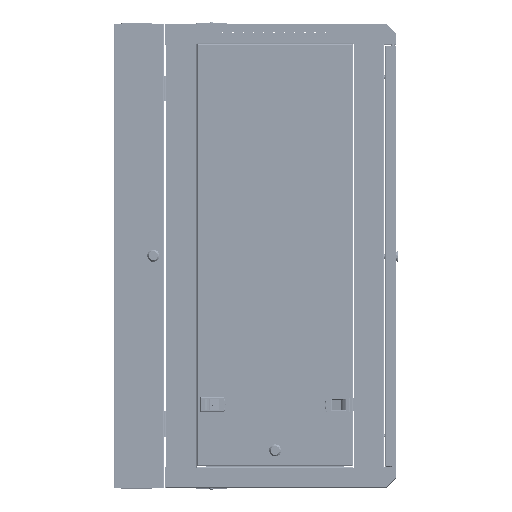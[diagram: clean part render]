
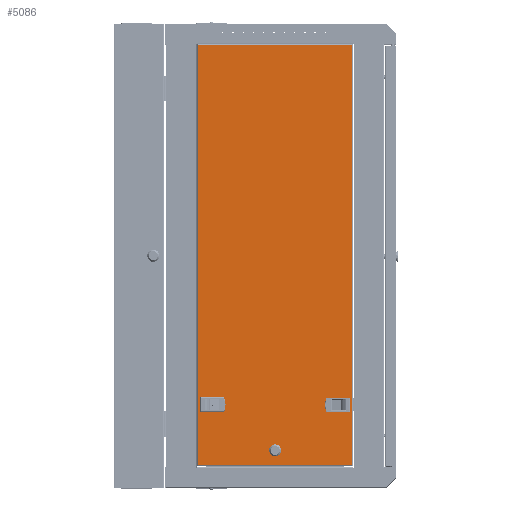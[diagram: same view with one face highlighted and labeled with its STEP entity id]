
A CAD part, top view. The second image highlights one B-rep face of the part: STEP entity #5086.
In plain terms, the highlighted planar face has unit normal (0, 0, 1) as drawn and (0, -1, 0) by its records, which use the part's own axes.
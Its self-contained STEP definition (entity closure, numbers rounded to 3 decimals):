
#5086 = ADVANCED_FACE( 'NONE', ( #13954, #13955, #13956, #13957 ), #13958, .T. );
#13954 = FACE_OUTER_BOUND( '', #34427, .T. );
#13955 = FACE_BOUND( '', #34428, .T. );
#13956 = FACE_BOUND( '', #34429, .T. );
#13957 = FACE_BOUND( '', #34430, .T. );
#13958 = PLANE( '', #34431 );
#34427 = EDGE_LOOP( '', ( #65802, #65803, #65804, #65805 ) );
#34428 = EDGE_LOOP( '', ( #65806, #65807, #65808, #65809 ) );
#34429 = EDGE_LOOP( '', ( #65810, #65811, #65812, #65813 ) );
#34430 = EDGE_LOOP( '', ( #65814, #65815, #65816, #65817 ) );
#34431 = AXIS2_PLACEMENT_3D( '', #65818, #65819, #65820 );
#65802 = ORIENTED_EDGE( '', *, *, #86759, .F. );
#65803 = ORIENTED_EDGE( '', *, *, #86874, .T. );
#65804 = ORIENTED_EDGE( '', *, *, #86903, .T. );
#65805 = ORIENTED_EDGE( '', *, *, #86741, .T. );
#65806 = ORIENTED_EDGE( '', *, *, #86762, .F. );
#65807 = ORIENTED_EDGE( '', *, *, #86806, .F. );
#65808 = ORIENTED_EDGE( '', *, *, #86904, .F. );
#65809 = ORIENTED_EDGE( '', *, *, #86905, .F. );
#65810 = ORIENTED_EDGE( '', *, *, #86686, .F. );
#65811 = ORIENTED_EDGE( '', *, *, #86690, .F. );
#65812 = ORIENTED_EDGE( '', *, *, #86906, .F. );
#65813 = ORIENTED_EDGE( '', *, *, #86895, .F. );
#65814 = ORIENTED_EDGE( '', *, *, #86865, .F. );
#65815 = ORIENTED_EDGE( '', *, *, #86907, .F. );
#65816 = ORIENTED_EDGE( '', *, *, #86908, .F. );
#65817 = ORIENTED_EDGE( '', *, *, #86693, .F. );
#65818 = CARTESIAN_POINT( '', ( -151.5, 0., 410.45 ) );
#65819 = DIRECTION( '', ( 0., -1., 0. ) );
#65820 = DIRECTION( '', ( 0., 0., -1. ) );
#86686 = EDGE_CURVE( 'NONE', #105418, #105420, #105421, .T. );
#86690 = EDGE_CURVE( 'NONE', #105426, #105418, #105428, .T. );
#86693 = EDGE_CURVE( 'NONE', #105431, #105433, #105434, .T. );
#86741 = EDGE_CURVE( 'NONE', #105525, #105526, #105527, .T. );
#86759 = EDGE_CURVE( 'NONE', #105556, #105526, #105558, .T. );
#86762 = EDGE_CURVE( 'NONE', #105561, #105563, #105564, .T. );
#86806 = EDGE_CURVE( 'NONE', #105634, #105561, #105636, .T. );
#86865 = EDGE_CURVE( 'NONE', #105731, #105431, #105733, .T. );
#86874 = EDGE_CURVE( 'NONE', #105556, #105735, #105748, .T. );
#86895 = EDGE_CURVE( 'NONE', #105420, #105781, #105782, .T. );
#86903 = EDGE_CURVE( 'NONE', #105735, #105525, #105792, .T. );
#86904 = EDGE_CURVE( 'NONE', #105793, #105634, #105794, .T. );
#86905 = EDGE_CURVE( 'NONE', #105563, #105793, #105795, .T. );
#86906 = EDGE_CURVE( 'NONE', #105781, #105426, #105796, .T. );
#86907 = EDGE_CURVE( 'NONE', #105797, #105731, #105798, .T. );
#86908 = EDGE_CURVE( 'NONE', #105433, #105797, #105799, .T. );
#105418 = VERTEX_POINT( 'NONE', #141581 );
#105420 = VERTEX_POINT( 'NONE', #141584 );
#105421 = LINE( '', #141585, #141586 );
#105426 = VERTEX_POINT( 'NONE', #141593 );
#105428 = LINE( '', #141596, #141597 );
#105431 = VERTEX_POINT( 'NONE', #141601 );
#105433 = VERTEX_POINT( 'NONE', #141604 );
#105434 = LINE( '', #141605, #141606 );
#105525 = VERTEX_POINT( 'NONE', #141730 );
#105526 = VERTEX_POINT( 'NONE', #141731 );
#105527 = LINE( '', #141732, #141733 );
#105556 = VERTEX_POINT( 'NONE', #141770 );
#105558 = LINE( '', #141773, #141774 );
#105561 = VERTEX_POINT( 'NONE', #141778 );
#105563 = VERTEX_POINT( 'NONE', #141781 );
#105564 = LINE( '', #141782, #141783 );
#105634 = VERTEX_POINT( 'NONE', #141883 );
#105636 = LINE( '', #141886, #141887 );
#105731 = VERTEX_POINT( 'NONE', #142023 );
#105733 = CIRCLE( '', #142026, 9.5 );
#105735 = VERTEX_POINT( 'NONE', #142028 );
#105748 = LINE( '', #142046, #142047 );
#105781 = VERTEX_POINT( 'NONE', #142096 );
#105782 = LINE( '', #142097, #142098 );
#105792 = LINE( '', #142115, #142116 );
#105793 = VERTEX_POINT( 'NONE', #142117 );
#105794 = LINE( '', #142118, #142119 );
#105795 = LINE( '', #142120, #142121 );
#105796 = LINE( '', #142122, #142123 );
#105797 = VERTEX_POINT( 'NONE', #142124 );
#105798 = LINE( '', #142125, #142126 );
#105799 = CIRCLE( '', #142127, 9.5 );
#141581 = CARTESIAN_POINT( '', ( -137.7, 0., -279.05 ) );
#141584 = CARTESIAN_POINT( '', ( -137.7, 0., -304.05 ) );
#141585 = CARTESIAN_POINT( '', ( -137.7, 0., -279.05 ) );
#141586 = VECTOR( '', #165318, 1000. );
#141593 = CARTESIAN_POINT( '', ( -101.3, 0., -279.05 ) );
#141596 = CARTESIAN_POINT( '', ( -137.7, 0., -279.05 ) );
#141597 = VECTOR( '', #165322, 1000. );
#141601 = CARTESIAN_POINT( '', ( -8.5, 0., -376.207 ) );
#141604 = CARTESIAN_POINT( '', ( -8.5, 0., -384.693 ) );
#141605 = CARTESIAN_POINT( '', ( -8.5, 0., -376.207 ) );
#141606 = VECTOR( '', #165325, 1000. );
#141730 = CARTESIAN_POINT( '', ( -150.2, 0., -409.15 ) );
#141731 = CARTESIAN_POINT( '', ( 150.2, 0., -409.15 ) );
#141732 = CARTESIAN_POINT( '', ( -150.2, 0., -409.15 ) );
#141733 = VECTOR( '', #165401, 1000. );
#141770 = CARTESIAN_POINT( '', ( 150.2, 0., 409.15 ) );
#141773 = CARTESIAN_POINT( '', ( 150.2, 0., 410.45 ) );
#141774 = VECTOR( '', #165435, 1000. );
#141778 = CARTESIAN_POINT( '', ( 137.7, 0., -279.05 ) );
#141781 = CARTESIAN_POINT( '', ( 101.3, 0., -279.05 ) );
#141782 = CARTESIAN_POINT( '', ( 137.7, 0., -279.05 ) );
#141783 = VECTOR( '', #165438, 1000. );
#141883 = CARTESIAN_POINT( '', ( 137.7, 0., -304.05 ) );
#141886 = CARTESIAN_POINT( '', ( 137.7, 0., -279.05 ) );
#141887 = VECTOR( '', #165506, 1000. );
#142023 = CARTESIAN_POINT( '', ( 8.5, 0., -376.207 ) );
#142026 = AXIS2_PLACEMENT_3D( '', #165597, #165598, #165599 );
#142028 = CARTESIAN_POINT( '', ( -150.2, 0., 409.15 ) );
#142046 = CARTESIAN_POINT( '', ( 150.2, 0., 409.15 ) );
#142047 = VECTOR( '', #165614, 1000. );
#142096 = CARTESIAN_POINT( '', ( -101.3, 0., -304.05 ) );
#142097 = CARTESIAN_POINT( '', ( -137.7, 0., -304.05 ) );
#142098 = VECTOR( '', #165643, 1000. );
#142115 = CARTESIAN_POINT( '', ( -150.2, 0., 410.45 ) );
#142116 = VECTOR( '', #165651, 1000. );
#142117 = CARTESIAN_POINT( '', ( 101.3, 0., -304.05 ) );
#142118 = CARTESIAN_POINT( '', ( 137.7, 0., -304.05 ) );
#142119 = VECTOR( '', #165652, 1000. );
#142120 = CARTESIAN_POINT( '', ( 101.3, 0., -279.05 ) );
#142121 = VECTOR( '', #165653, 1000. );
#142122 = CARTESIAN_POINT( '', ( -101.3, 0., -279.05 ) );
#142123 = VECTOR( '', #165654, 1000. );
#142124 = CARTESIAN_POINT( '', ( 8.5, 0., -384.693 ) );
#142125 = CARTESIAN_POINT( '', ( 8.5, 0., -376.207 ) );
#142126 = VECTOR( '', #165655, 1000. );
#142127 = AXIS2_PLACEMENT_3D( '', #165656, #165657, #165658 );
#165318 = DIRECTION( '', ( 0., 0., -1. ) );
#165322 = DIRECTION( '', ( -1., 0., 0. ) );
#165325 = DIRECTION( '', ( 0., 0., -1. ) );
#165401 = DIRECTION( '', ( 1., 0., 0. ) );
#165435 = DIRECTION( '', ( 0., 0., -1. ) );
#165438 = DIRECTION( '', ( -1., 0., 0. ) );
#165506 = DIRECTION( '', ( 0., 0., 1. ) );
#165597 = CARTESIAN_POINT( '', ( 0., 0., -380.45 ) );
#165598 = DIRECTION( '', ( 0., -1., 0. ) );
#165599 = DIRECTION( '', ( 1., 0., 0. ) );
#165614 = DIRECTION( '', ( -1., 0., 0. ) );
#165643 = DIRECTION( '', ( 1., 0., 0. ) );
#165651 = DIRECTION( '', ( 0., 0., -1. ) );
#165652 = DIRECTION( '', ( 1., 0., 0. ) );
#165653 = DIRECTION( '', ( 0., 0., -1. ) );
#165654 = DIRECTION( '', ( 0., 0., 1. ) );
#165655 = DIRECTION( '', ( 0., 0., 1. ) );
#165656 = CARTESIAN_POINT( '', ( 0., 0., -380.45 ) );
#165657 = DIRECTION( '', ( 0., -1., 0. ) );
#165658 = DIRECTION( '', ( 1., 0., 0. ) );
